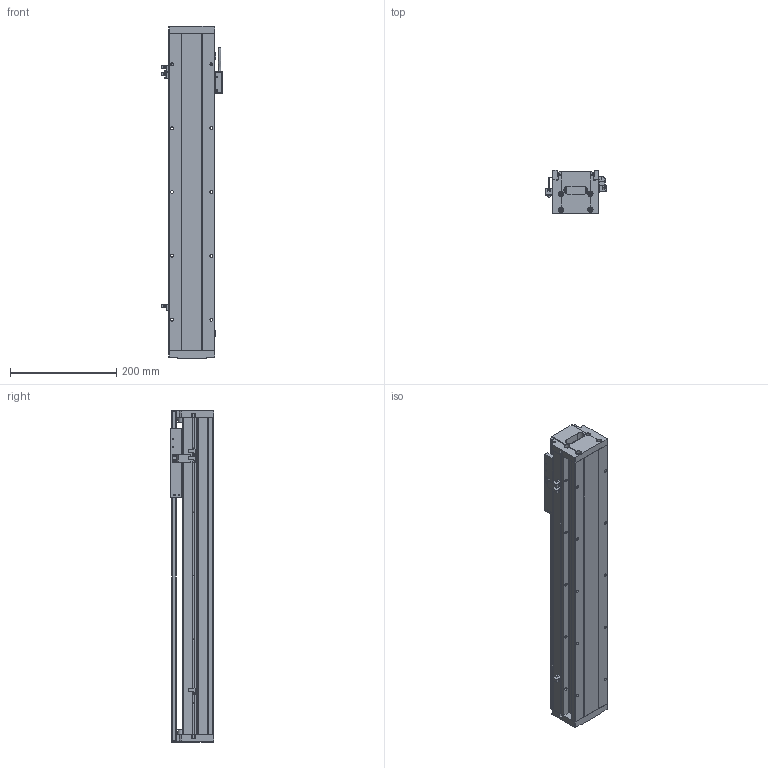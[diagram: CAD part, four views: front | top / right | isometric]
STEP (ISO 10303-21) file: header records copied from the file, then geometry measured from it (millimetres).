
FILE_DESCRIPTION (( 'STEP AP214' ), '1' );
FILE_NAME ('STC086-A-P-0426-F105-MB-010-0.3.STEP', '2023-05-11T03:06:37', ( '' ), ( '' ), 'SwSTEP 2.0', 'SolidWorks 2018', '' );
FILE_SCHEMA (( 'AUTOMOTIVE_DESIGN' ));
Length unit declared in the file: millimetre
Products named in the file (43): 絳寢SRS12M+xxxxL-G10; SF-202NA-W（光电开关）; STK0066-001（086端盖）; STK013-01（磁栅压块）; 賑輸SRS12M; 086-Lxxxx裔啣; 086-Lxxxx菁釱; HC-U-02-Lxxx棠掑喜; 蝶菜17x14x10; 086-SE1-040-S賑怢; STC086-A-P-0426-F105-MB-010-0.3; SE040隅赽; STK0086-001（086读头固定块）; SKT0112-02（线缆固定件）; STK0112-01（感应片）(默认); LMD-2-R001-V5-L0.3-C0-F00（磁栅编码器）; STK080-F105賑怢蚾饜极
Assembly tree (27 placements, depth 3):
  絳寢SRS12M+xxxxL-G10
  SF-202NA-W（光电开关）
  絳寢SRS12M+xxxxL-G10
  STK0066-001（086端盖）
  STK013-01（磁栅压块）
Bounding box: 114.4 x 81 x 624 mm (x, y, z)
Volume: 2093680.8 mm3; surface area: 658740 mm2
Topology: 26 solids, 26 shells, 1858 faces, 5116 edges, 3261 vertices
Faces by surface type: plane 903, cylinder 771, cone 160, torus 14, bspline 6, sphere 4
Entity records: 43230 total; most frequent: CARTESIAN_POINT 8544, DIRECTION 7017, ORIENTED_EDGE 6966, EDGE_CURVE 3483, AXIS2_PLACEMENT_3D 2452, VERTEX_POINT 2279, VECTOR 2113, LINE 2113
